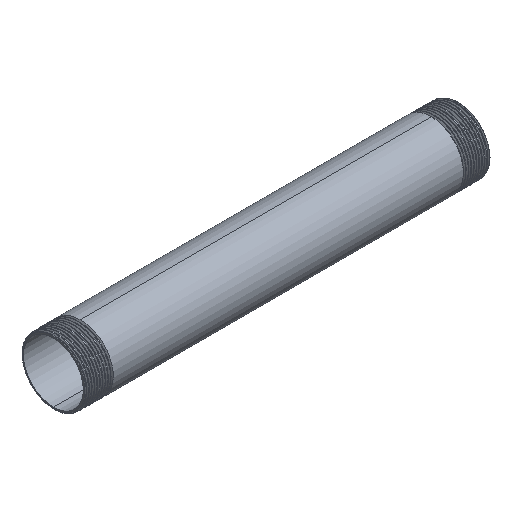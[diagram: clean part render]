
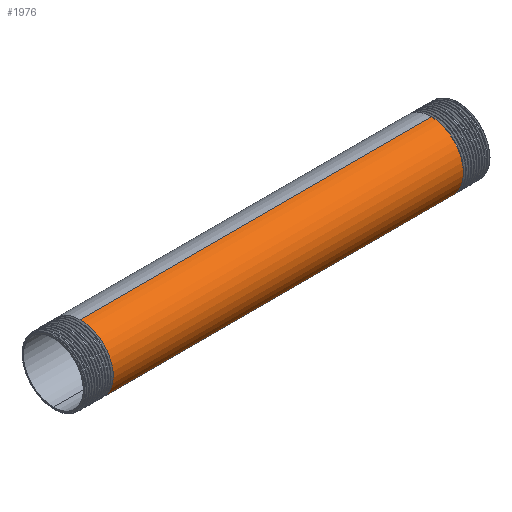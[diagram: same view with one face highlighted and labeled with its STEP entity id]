
A CAD part, isometric view. The second image highlights one B-rep face of the part: STEP entity #1976.
In plain terms, the highlighted cylindrical face has radius 24.15 mm (diameter 48.3 mm), a partial arc.
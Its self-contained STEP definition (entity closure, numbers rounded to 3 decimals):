
#19 = DIRECTION ( 'NONE',  ( -1., 0., 0. ) ) ;
#221 = CARTESIAN_POINT ( 'NONE',  ( 130.05, -14.195, 19.538 ) ) ;
#423 = EDGE_LOOP ( 'NONE', ( #8247, #4407, #6377, #9649 ) ) ;
#827 = CARTESIAN_POINT ( 'NONE',  ( 130.25, 0., 24.15 ) ) ;
#972 = VERTEX_POINT ( 'NONE', #5210 ) ;
#988 = CARTESIAN_POINT ( 'NONE',  ( -149.494, 0., -24.15 ) ) ;
#1059 = CARTESIAN_POINT ( 'NONE',  ( -130.05, -14.195, 19.538 ) ) ;
#1161 = CARTESIAN_POINT ( 'NONE',  ( -129.75, -25.393, 0. ) ) ;
#1621 = VERTEX_POINT ( 'NONE', #3963 ) ;
#1910 = CARTESIAN_POINT ( 'NONE',  ( -130.15, -7.847, 24.15 ) ) ;
#1934 =( BOUNDED_CURVE ( )  B_SPLINE_CURVE ( 2, ( #6615, #8028, #9536, #4226, #2715, #1161, #5715, #5664, #1059, #1910, #2814 ),
 .UNSPECIFIED., .F., .F. ) 
 B_SPLINE_CURVE_WITH_KNOTS ( ( 3, 2, 2, 2, 2, 3 ),
 ( 0., 0.008, 0.017, 0.025, 0.033, 0.042 ),
 .UNSPECIFIED. ) 
 CURVE ( )  GEOMETRIC_REPRESENTATION_ITEM ( )  RATIONAL_B_SPLINE_CURVE ( ( 1., 0.951, 1., 0.951, 1., 0.951, 1., 0.951, 1., 0.951, 1. ) ) 
 REPRESENTATION_ITEM ( '' )  );
#1976 = ADVANCED_FACE ( 'NONE', ( #9318 ), #2447, .T. ) ;
#2447 = CYLINDRICAL_SURFACE ( 'NONE', #8312, 24.15 ) ;
#2715 = CARTESIAN_POINT ( 'NONE',  ( -129.65, -22.968, -7.463 ) ) ;
#2814 = CARTESIAN_POINT ( 'NONE',  ( -130.25, 0., 24.15 ) ) ;
#3230 = VERTEX_POINT ( 'NONE', #3991 ) ;
#3454 = VECTOR ( 'NONE', #8708, 1000. ) ;
#3944 = VERTEX_POINT ( 'NONE', #827 ) ;
#3963 = CARTESIAN_POINT ( 'NONE',  ( 129.25, 0., -24.15 ) ) ;
#3991 = CARTESIAN_POINT ( 'NONE',  ( -130.25, 0., 24.15 ) ) ;
#4195 = CARTESIAN_POINT ( 'NONE',  ( 129.35, -7.847, -24.15 ) ) ;
#4209 = LINE ( 'NONE', #988, #3454 ) ;
#4226 = CARTESIAN_POINT ( 'NONE',  ( -129.55, -20.543, -14.926 ) ) ;
#4407 = ORIENTED_EDGE ( 'NONE', *, *, #7227, .T. ) ;
#4518 = EDGE_CURVE ( 'NONE', #1621, #972, #4209, .T. ) ;
#4708 = CARTESIAN_POINT ( 'NONE',  ( -149.494, 0., 0. ) ) ;
#4889 = CARTESIAN_POINT ( 'NONE',  ( 129.85, -22.968, 7.463 ) ) ;
#4944 =( BOUNDED_CURVE ( )  B_SPLINE_CURVE ( 2, ( #9458, #4195, #7242, #7141, #5632, #9352, #4889, #9556, #221, #8698, #8747 ),
 .UNSPECIFIED., .F., .F. ) 
 B_SPLINE_CURVE_WITH_KNOTS ( ( 3, 2, 2, 2, 2, 3 ),
 ( 0., 0.008, 0.017, 0.025, 0.033, 0.042 ),
 .UNSPECIFIED. ) 
 CURVE ( )  GEOMETRIC_REPRESENTATION_ITEM ( )  RATIONAL_B_SPLINE_CURVE ( ( 1., 0.951, 1., 0.951, 1., 0.951, 1., 0.951, 1., 0.951, 1. ) ) 
 REPRESENTATION_ITEM ( '' )  );
#5210 = CARTESIAN_POINT ( 'NONE',  ( -129.25, 0., -24.15 ) ) ;
#5397 = EDGE_CURVE ( 'NONE', #972, #3230, #1934, .T. ) ;
#5464 = CARTESIAN_POINT ( 'NONE',  ( -149.494, 0., 24.15 ) ) ;
#5632 = CARTESIAN_POINT ( 'NONE',  ( 129.65, -22.968, -7.463 ) ) ;
#5664 = CARTESIAN_POINT ( 'NONE',  ( -129.95, -20.543, 14.926 ) ) ;
#5715 = CARTESIAN_POINT ( 'NONE',  ( -129.85, -22.968, 7.463 ) ) ;
#6078 = LINE ( 'NONE', #5464, #8588 ) ;
#6377 = ORIENTED_EDGE ( 'NONE', *, *, #7723, .T. ) ;
#6615 = CARTESIAN_POINT ( 'NONE',  ( -129.25, 0., -24.15 ) ) ;
#6954 = DIRECTION ( 'NONE',  ( -1., 0., 0. ) ) ;
#7141 = CARTESIAN_POINT ( 'NONE',  ( 129.55, -20.543, -14.926 ) ) ;
#7227 = EDGE_CURVE ( 'NONE', #1621, #3944, #4944, .T. ) ;
#7242 = CARTESIAN_POINT ( 'NONE',  ( 129.45, -14.195, -19.538 ) ) ;
#7723 = EDGE_CURVE ( 'NONE', #3944, #3230, #6078, .T. ) ;
#7762 = DIRECTION ( 'NONE',  ( 0., 0., 1. ) ) ;
#8028 = CARTESIAN_POINT ( 'NONE',  ( -129.35, -7.847, -24.15 ) ) ;
#8247 = ORIENTED_EDGE ( 'NONE', *, *, #4518, .F. ) ;
#8312 = AXIS2_PLACEMENT_3D ( 'NONE', #4708, #6954, #7762 ) ;
#8588 = VECTOR ( 'NONE', #19, 1000. ) ;
#8698 = CARTESIAN_POINT ( 'NONE',  ( 130.15, -7.847, 24.15 ) ) ;
#8708 = DIRECTION ( 'NONE',  ( -1., 0., 0. ) ) ;
#8747 = CARTESIAN_POINT ( 'NONE',  ( 130.25, 0., 24.15 ) ) ;
#9318 = FACE_OUTER_BOUND ( 'NONE', #423, .T. ) ;
#9352 = CARTESIAN_POINT ( 'NONE',  ( 129.75, -25.393, 0. ) ) ;
#9458 = CARTESIAN_POINT ( 'NONE',  ( 129.25, 0., -24.15 ) ) ;
#9536 = CARTESIAN_POINT ( 'NONE',  ( -129.45, -14.195, -19.538 ) ) ;
#9556 = CARTESIAN_POINT ( 'NONE',  ( 129.95, -20.543, 14.926 ) ) ;
#9649 = ORIENTED_EDGE ( 'NONE', *, *, #5397, .F. ) ;
